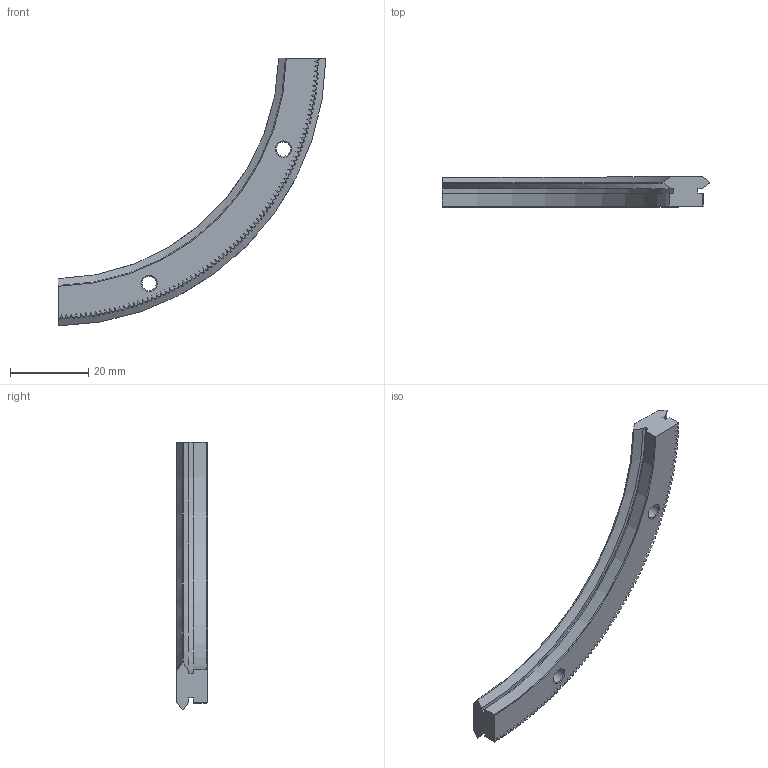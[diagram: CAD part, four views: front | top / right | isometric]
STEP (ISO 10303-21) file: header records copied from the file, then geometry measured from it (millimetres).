
FILE_DESCRIPTION( ( 'STEP AP203' ), '1' );
FILE_NAME( 'p:/temp/worker_34/temp/exporttempdir_4840_85_JWivI/format_0/R12 127 R90 P.stp', '2021-08-30T04:09:19', ( 'License CC BY-ND 4.0' ), ( 'CADENAS' ), ' ', 'PARTsolutions', ' ' );
FILE_SCHEMA( ( 'CONFIG_CONTROL_DESIGN' ) );
Length unit declared in the file: millimetre
Products named in the file (1): _R12 127 R90 P
Bounding box: 68.54 x 7.7 x 68.54 mm (x, y, z)
Volume: 6249.3 mm3; surface area: 4631.2 mm2
Topology: 1 solids, 1 shells, 358 faces, 1060 edges, 706 vertices
Faces by surface type: plane 176, cone 90, cylinder 90, torus 2
Full cylindrical faces by diameter (mm): 3.7 x2, 6 x2
Entity records: 12194 total; most frequent: CARTESIAN_POINT 2673, ORIENTED_EDGE 2108, DIRECTION 1864, EDGE_CURVE 1054, VERTEX_POINT 706, AXIS2_PLACEMENT_3D 633, LINE 598, VECTOR 598
